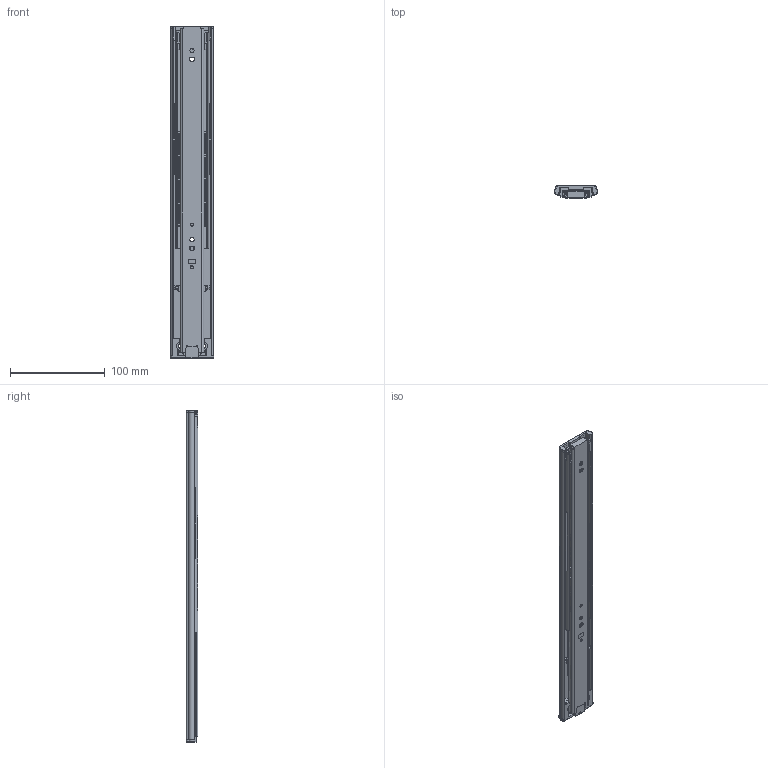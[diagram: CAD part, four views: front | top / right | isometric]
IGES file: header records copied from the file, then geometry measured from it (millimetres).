
Global section: file name: No Iges File Name specified; native system: Autodesk Inventor 2010; preprocessor: AutoDesk Inventor Iges Exporter R2010; author: jennes; date: 20110120.112106; units: millimetre
Bounding box: 45.98 x 12.5 x 351.1 mm (x, y, z)
Volume: 81387.4 mm3; surface area: 126518.6 mm2
Topology: 45 solids, 45 shells, 1614 faces, 4630 edges, 2903 vertices
Faces by surface type: plane 863, cylinder 361, revolution 211, sphere 76, torus 55, bspline 48
